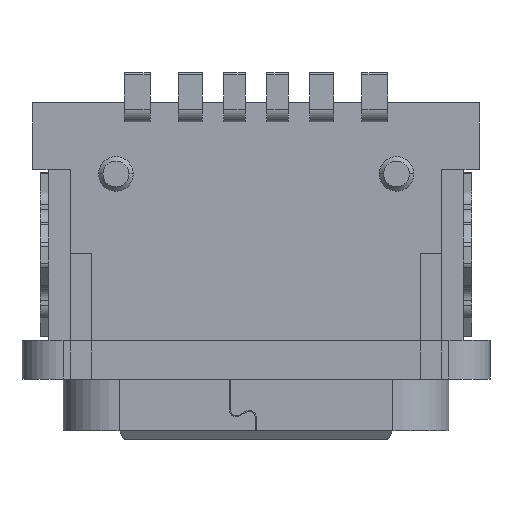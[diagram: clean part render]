
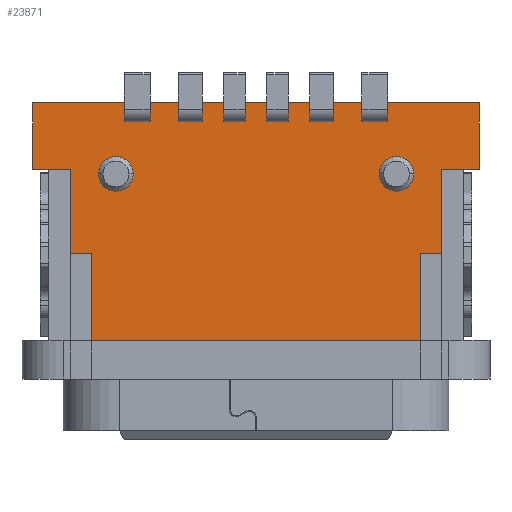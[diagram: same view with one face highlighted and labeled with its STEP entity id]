
A CAD part, front view. The second image highlights one B-rep face of the part: STEP entity #23871.
In plain terms, the highlighted planar face has unit normal (0, -1, 0).
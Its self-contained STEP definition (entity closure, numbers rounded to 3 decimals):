
#22809=DIRECTION('',(0.,0.,-1.));
#22810=VECTOR('',#22809,3.95);
#22811=CARTESIAN_POINT('',(25.7,-2.16,6.35));
#22812=LINE('',#22811,#22810);
#22821=DIRECTION('',(-1.,0.,0.));
#22822=VECTOR('',#22821,8.6);
#22823=CARTESIAN_POINT('',(34.3,-2.16,2.4));
#22824=LINE('',#22823,#22822);
#22825=DIRECTION('',(-1.,0.,0.));
#22826=VECTOR('',#22825,0.87);
#22827=CARTESIAN_POINT('',(25.7,-2.16,6.35));
#22828=LINE('',#22827,#22826);
#22829=DIRECTION('',(0.,0.,1.));
#22830=VECTOR('',#22829,1.55);
#22831=CARTESIAN_POINT('',(24.83,-2.16,6.35));
#22832=LINE('',#22831,#22830);
#22833=DIRECTION('',(0.,0.,-1.));
#22834=VECTOR('',#22833,1.55);
#22835=CARTESIAN_POINT('',(35.17,-2.16,7.9));
#22836=LINE('',#22835,#22834);
#22837=DIRECTION('',(-1.,0.,0.));
#22838=VECTOR('',#22837,0.87);
#22839=CARTESIAN_POINT('',(35.17,-2.16,6.35));
#22840=LINE('',#22839,#22838);
#22933=DIRECTION('',(0.,0.,1.));
#22934=VECTOR('',#22933,3.95);
#22935=CARTESIAN_POINT('',(34.3,-2.16,2.4));
#22936=LINE('',#22935,#22934);
#22981=DIRECTION('',(-1.,0.,0.));
#22982=VECTOR('',#22981,10.34);
#22983=CARTESIAN_POINT('',(35.17,-2.16,7.9));
#22984=LINE('',#22983,#22982);
#23316=CARTESIAN_POINT('',(25.7,-2.16,2.4));
#23317=VERTEX_POINT('',#23316);
#23318=CARTESIAN_POINT('',(34.3,-2.16,2.4));
#23319=VERTEX_POINT('',#23318);
#23344=CARTESIAN_POINT('',(25.7,-2.16,6.35));
#23345=VERTEX_POINT('',#23344);
#23346=CARTESIAN_POINT('',(24.83,-2.16,6.35));
#23347=VERTEX_POINT('',#23346);
#23348=CARTESIAN_POINT('',(24.83,-2.16,7.9));
#23349=VERTEX_POINT('',#23348);
#23350=CARTESIAN_POINT('',(35.17,-2.16,7.9));
#23351=VERTEX_POINT('',#23350);
#23352=CARTESIAN_POINT('',(35.17,-2.16,6.35));
#23353=VERTEX_POINT('',#23352);
#23354=CARTESIAN_POINT('',(34.3,-2.16,6.35));
#23355=VERTEX_POINT('',#23354);
#23850=CARTESIAN_POINT('',(30.,-2.16,4.95));
#23851=DIRECTION('',(0.,1.,0.));
#23852=DIRECTION('',(1.,0.,0.));
#23853=AXIS2_PLACEMENT_3D('',#23850,#23851,#23852);
#23854=PLANE('',#23853);
#23855=ORIENTED_EDGE('',*,*,#23768,.T.);
#23856=ORIENTED_EDGE('',*,*,#23841,.F.);
#23858=ORIENTED_EDGE('',*,*,#23857,.T.);
#23860=ORIENTED_EDGE('',*,*,#23859,.T.);
#23862=ORIENTED_EDGE('',*,*,#23861,.F.);
#23864=ORIENTED_EDGE('',*,*,#23863,.T.);
#23866=ORIENTED_EDGE('',*,*,#23865,.T.);
#23868=ORIENTED_EDGE('',*,*,#23867,.F.);
#23869=EDGE_LOOP('',(#23855,#23856,#23858,#23860,#23862,#23864,#23866,#23868));
#23870=FACE_OUTER_BOUND('',#23869,.F.);
#23871=ADVANCED_FACE('',(#23870),#23854,.F.);
#23768=EDGE_CURVE('',#23319,#23317,#22824,.T.);
#23841=EDGE_CURVE('',#23345,#23317,#22812,.T.);
#23857=EDGE_CURVE('',#23345,#23347,#22828,.T.);
#23859=EDGE_CURVE('',#23347,#23349,#22832,.T.);
#23861=EDGE_CURVE('',#23351,#23349,#22984,.T.);
#23863=EDGE_CURVE('',#23351,#23353,#22836,.T.);
#23865=EDGE_CURVE('',#23353,#23355,#22840,.T.);
#23867=EDGE_CURVE('',#23319,#23355,#22936,.T.);
